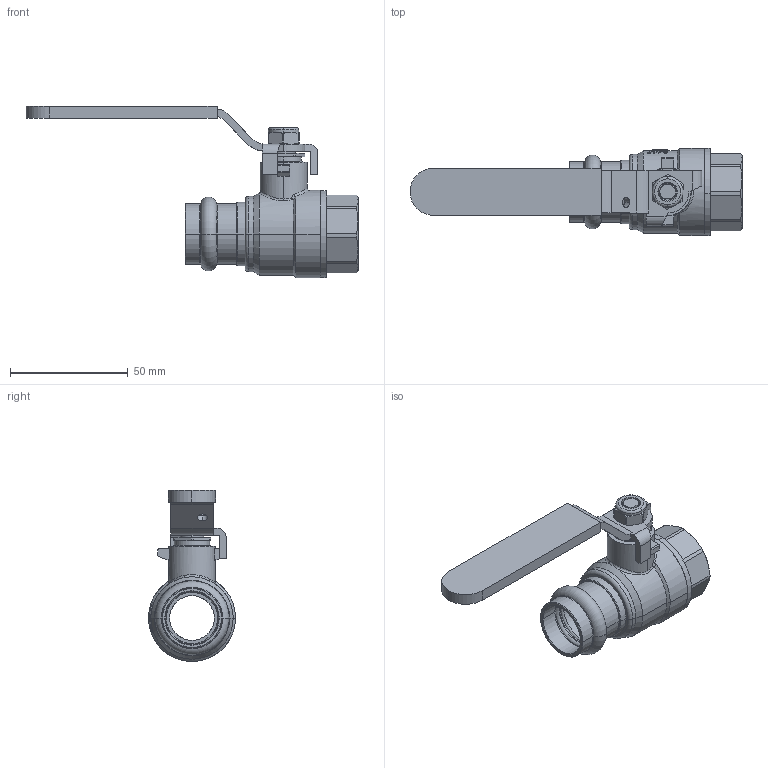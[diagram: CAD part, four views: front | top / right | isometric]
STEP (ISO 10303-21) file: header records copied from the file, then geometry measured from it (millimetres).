
FILE_DESCRIPTION(('Open CASCADE Model'),'2;1');
FILE_NAME('Open CASCADE Shape Model','2021-12-13T15:08:29',('Author'),( 'Open CASCADE'),'Open CASCADE STEP processor 7.3','Open CASCADE 7.3' ,'Unknown');
FILE_SCHEMA(('AUTOMOTIVE_DESIGN { 1 0 10303 214 1 1 1 1 }'));
Length unit declared in the file: millimetre
Products named in the file (13): Open CASCADE STEP translator 7.3 1; Open CASCADE STEP translator 7.3 1.1; Open CASCADE STEP translator 7.3 1.2; Open CASCADE STEP translator 7.3 1.3; Open CASCADE STEP translator 7.3 1.4; Open CASCADE STEP translator 7.3 1.5; Open CASCADE STEP translator 7.3 1.6; Open CASCADE STEP translator 7.3 1.7; Open CASCADE STEP translator 7.3 1.8; Open CASCADE STEP translator 7.3 1.9; Open CASCADE STEP translator 7.3 1.10; Open CASCADE STEP translator 7.3 1.11; Open CASCADE STEP translator 7.3 1.12
Assembly tree (12 placements, depth 2):
  Open CASCADE STEP translator 7.3 1
    Open CASCADE STEP translator 7.3 1.1
    Open CASCADE STEP translator 7.3 1.2
    Open CASCADE STEP translator 7.3 1.3
    Open CASCADE STEP translator 7.3 1.4
    Open CASCADE STEP translator 7.3 1.5
    Open CASCADE STEP translator 7.3 1.6
    Open CASCADE STEP translator 7.3 1.7
    Open CASCADE STEP translator 7.3 1.8
    Open CASCADE STEP translator 7.3 1.9
    Open CASCADE STEP translator 7.3 1.10
    Open CASCADE STEP translator 7.3 1.11
    Open CASCADE STEP translator 7.3 1.12
Bounding box: 141.1 x 37 x 72.71 mm (x, y, z)
Volume: 47373.5 mm3; surface area: 37354.1 mm2
Topology: 12 solids, 12 shells, 623 faces, 1627 edges, 1053 vertices
Faces by surface type: cylinder 190, plane 166, bspline 132, cone 87, torus 42, sphere 6
Entity records: 119857 total; most frequent: CARTESIAN_POINT 91002, DIRECTION 4221, ORIENTED_EDGE 3254, PCURVE 3254, DEFINITIONAL_REPRESENTATION 3254, LINE 2157, VECTOR 2157, B_SPLINE_CURVE_WITH_KNOTS 1849
